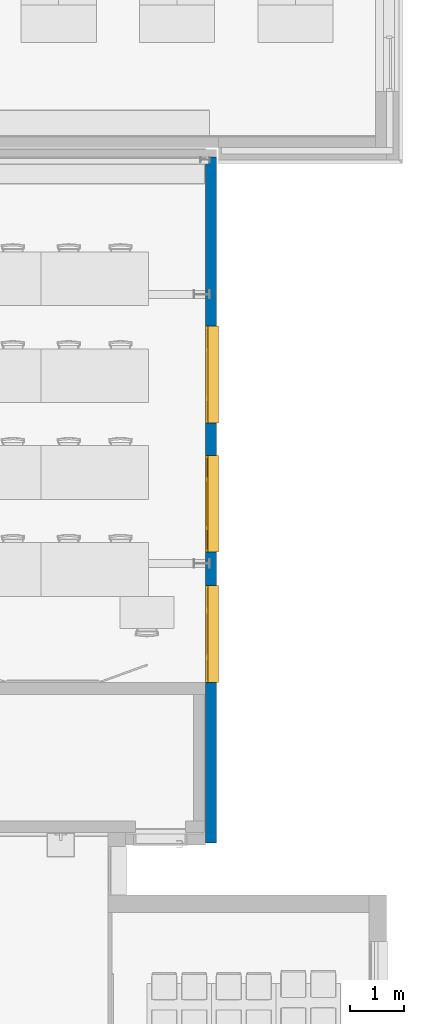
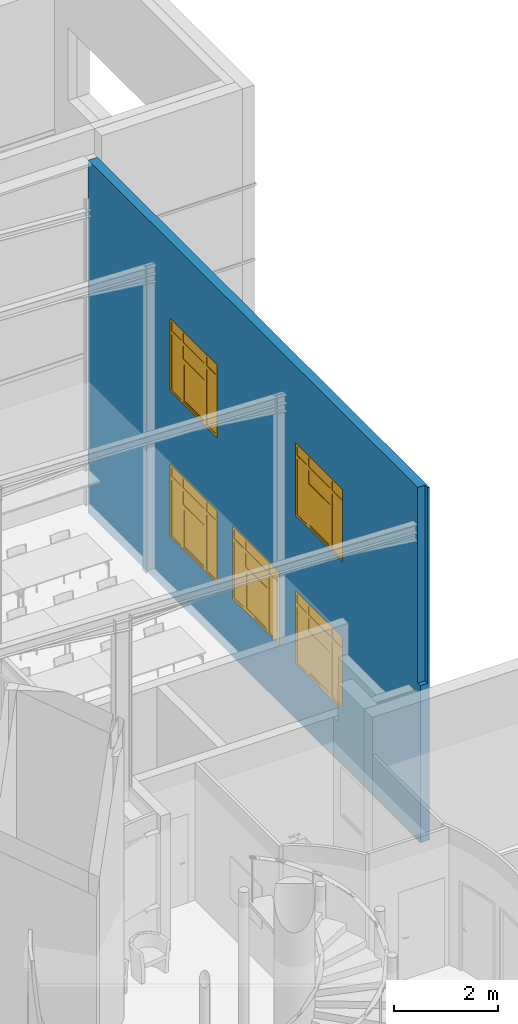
"""IFC2X3 building model written with IfcOpenShell, lengths in centimetres."""

from ifc_helpers import new_model, entity, si_unit, converted_unit, derived_unit, direction, frame, frame_2d, origin, place, context, subcontext, project, spatial, polyline, rectangle, outline, extrude, faceted_brep, source, transform, mapped, material, material_list, type_object, type_shapes, element, fill, save


model = new_model("IFC2X3")

# Units and contexts
model_context = context("Model", 3, precision=0.001, world=origin(), true_north=direction((6.12303176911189e-17, 1.0)))
body_context = subcontext(model_context, "Body", "Model", "MODEL_VIEW")
ifc_project = project(units=[si_unit("LENGTHUNIT", "METRE", prefix="CENTI"), si_unit("AREAUNIT", "SQUARE_METRE"), si_unit("VOLUMEUNIT", "CUBIC_METRE"), converted_unit("PLANEANGLEUNIT", "DEGREE", entity("IfcRatioMeasure", 0.0174532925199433), si_unit("PLANEANGLEUNIT", "RADIAN"), dimensions=[0, 0, 0, 0, 0, 0, 0]), si_unit("MASSUNIT", "GRAM", prefix="KILO"), si_unit("TIMEUNIT", "SECOND"), si_unit("FREQUENCYUNIT", "HERTZ"), si_unit("THERMODYNAMICTEMPERATUREUNIT", "DEGREE_CELSIUS"), derived_unit("THERMALTRANSMITTANCEUNIT", [(si_unit("MASSUNIT", "GRAM", prefix="KILO"), 1), (si_unit("THERMODYNAMICTEMPERATUREUNIT", "KELVIN"), -1), (si_unit("TIMEUNIT", "SECOND"), -3)]), derived_unit("VOLUMETRICFLOWRATEUNIT", [(si_unit("LENGTHUNIT", "METRE"), 3), (si_unit("TIMEUNIT", "SECOND"), -1)]), si_unit("ELECTRICCURRENTUNIT", "AMPERE"), si_unit("ELECTRICVOLTAGEUNIT", "VOLT"), si_unit("POWERUNIT", "WATT"), si_unit("FORCEUNIT", "NEWTON", prefix="KILO"), si_unit("ILLUMINANCEUNIT", "LUX"), si_unit("LUMINOUSFLUXUNIT", "LUMEN"), si_unit("LUMINOUSINTENSITYUNIT", "CANDELA"), derived_unit("USERDEFINED", [(si_unit("MASSUNIT", "GRAM", prefix="KILO"), -1), (si_unit("LENGTHUNIT", "METRE"), -2), (si_unit("TIMEUNIT", "SECOND"), 3), (si_unit("LUMINOUSFLUXUNIT", "LUMEN"), 1)]), derived_unit("LINEARVELOCITYUNIT", [(si_unit("LENGTHUNIT", "METRE"), 1), (si_unit("TIMEUNIT", "SECOND"), -1)]), si_unit("PRESSUREUNIT", "PASCAL"), derived_unit("USERDEFINED", [(si_unit("LENGTHUNIT", "METRE"), -2), (si_unit("MASSUNIT", "GRAM", prefix="KILO"), 1), (si_unit("TIMEUNIT", "SECOND"), -2)])], contexts=[model_context])

# Site, building, storey
site_placement = place(None, frame((8.62739174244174, -249.285249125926, 0.0)))
site = spatial("IfcSite", under=ifc_project, at=site_placement, Name="Default", CompositionType="ELEMENT")
building_placement = place(site_placement, origin())
building = spatial("IfcBuilding", under=site, at=building_placement, CompositionType="ELEMENT")
storey_1_placement = place(building_placement, origin())
storey_1 = spatial("IfcBuildingStorey", under=building, at=storey_1_placement, Name="RDC", CompositionType="ELEMENT", Elevation=-8.82465566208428e-11)

# Wall, openings, windows
ifc_material_1 = material(Name="Tôle/Doublage")
ifc_material_2 = material(Name="Laine minérale")
ifc_material_3 = material(Name="Plâtre")
ifc_material_list = material_list([ifc_material_1, ifc_material_2, ifc_material_3])
wall_type = type_object("IfcWallType", Name="Mur de base:MET 4 + ISO 14 + PLA 2", PredefinedType="NOTDEFINED")
wall_placement = place(storey_1_placement, frame((3672.90482780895, 1342.98020807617, -25.0), z_axis=(0.0, 0.0, 1.0), x_axis=(0.0, 1.0, 0.0)))
wall = element("IfcWall", 1, at=wall_placement, inside=storey_1, type_object=wall_type, material=ifc_material_list, Name="Mur de base:MET 4 + ISO 14 + PLA 2", ObjectType="Mur de base:MET 4 + ISO 14 + PLA 2", context=body_context, shape_type="Brep", body=[
    faceted_brep([(0.0, -10.0, 0.0), (1274.0, -10.0, 0.0), (1274.0, -10.0, 25.0), (1274.0, -10.0, 826.0), (0.0, -10.0, 826.0), (478.0, -10.0, 300.0), (478.0, -10.0, 130.0), (298.0, -10.0, 130.0), (298.0, -10.0, 300.0), (720.0, -10.0, 305.0), (720.0, -10.0, 135.0), (540.0, -10.0, 135.0), (540.0, -10.0, 305.0), (960.0, -10.0, 305.0), (960.0, -10.0, 135.0), (780.0, -10.0, 135.0), (780.0, -10.0, 305.0), (960.0, -10.0, 646.0), (960.0, -10.0, 476.0), (780.0, -10.0, 476.0), (780.0, -10.0, 646.0), (478.0, -10.0, 646.0), (478.0, -10.0, 476.0), (298.0, -10.0, 476.0), (298.0, -10.0, 646.0), (1274.0, 10.0, 0.0), (0.0, 10.0, 0.0), (0.0, 10.0, 368.0), (9.99960552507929, 10.0, 368.0), (9.99960552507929, 10.0, 826.0), (1274.0, 10.0, 826.0), (1274.0, 10.0, 825.899999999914), (478.0, 10.0, 130.0), (478.0, 10.0, 300.0), (298.0, 10.0, 300.0), (298.0, 10.0, 130.0), (720.0, 10.0, 135.0), (720.0, 10.0, 305.0), (540.0, 10.0, 305.0), (540.0, 10.0, 135.0), (960.0, 10.0, 135.0), (960.0, 10.0, 305.0), (780.0, 10.0, 305.0), (780.0, 10.0, 135.0), (960.0, 10.0, 476.0), (960.0, 10.0, 646.0), (780.0, 10.0, 646.0), (780.0, 10.0, 476.0), (478.0, 10.0, 476.0), (478.0, 10.0, 646.0), (298.0, 10.0, 646.0), (298.0, 10.0, 476.0), (9.99960552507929, -6.08026676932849, 826.0), (0.0, -6.08026676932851, 826.0), (0.0, -6.08026676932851, 368.0), (9.99960552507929, -6.08026676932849, 368.0)], [[[0, 1, 2, 3, 4], [5, 6, 7, 8], [9, 10, 11, 12], [13, 14, 15, 16], [17, 18, 19, 20], [21, 22, 23, 24]], [[25, 26, 27, 28, 29, 30, 31], [32, 33, 34, 35], [36, 37, 38, 39], [40, 41, 42, 43], [44, 45, 46, 47], [48, 49, 50, 51]], [[33, 32, 6, 5]], [[34, 33, 5, 8]], [[35, 34, 8, 7]], [[32, 35, 7, 6]], [[36, 10, 9, 37]], [[12, 38, 37, 9]], [[11, 39, 38, 12]], [[39, 11, 10, 36]], [[41, 40, 14, 13]], [[42, 41, 13, 16]], [[43, 42, 16, 15]], [[40, 43, 15, 14]], [[45, 44, 18, 17]], [[46, 45, 17, 20]], [[47, 46, 20, 19]], [[44, 47, 19, 18]], [[49, 48, 22, 21]], [[50, 49, 21, 24]], [[51, 50, 24, 23]], [[48, 51, 23, 22]], [[1, 0, 26, 25]], [[4, 3, 30, 29, 52, 53]], [[0, 4, 53, 54, 27, 26]], [[3, 2, 1, 25, 31, 30]], [[55, 52, 29, 28]], [[55, 28, 27, 54]], [[52, 55, 54, 53]]]),
])
opening_1_placement = place(wall_placement, frame((478.0, 10.0, 130.0)))
opening_1 = element("IfcOpeningElement", 2, at=opening_1_placement, cuts=wall, Name="V_90x100-I_90x40:V_90x100-I_90x40:1", ObjectType="Opening", context=body_context, shape_type="SweptSolid", body=[
    extrude(rectangle(XDim=169.999999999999, YDim=180.0, at=frame_2d((84.9999999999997, 90.0000000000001), x_axis=(1.0, 0.0))), frame((0.0, 0.0, 0.0), z_axis=(0.0, -1.0, 0.0), x_axis=(0.0, 0.0, 1.0)), (0.0, 0.0, 1.0), 20.0),
])
opening_2_placement = place(wall_placement, frame((720.0, 10.0, 135.0)))
opening_2 = element("IfcOpeningElement", 3, at=opening_2_placement, cuts=wall, Name="V_90x100-I_90x40:V_90x100-I_90x40:1", ObjectType="Opening", context=body_context, shape_type="SweptSolid", body=[
    extrude(rectangle(XDim=169.999999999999, YDim=180.0, at=frame_2d((84.9999999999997, 90.0000000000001), x_axis=(1.0, 0.0))), frame((0.0, 0.0, 0.0), z_axis=(0.0, -1.0, 0.0), x_axis=(0.0, 0.0, 1.0)), (0.0, 0.0, 1.0), 20.0),
])
opening_3_placement = place(wall_placement, frame((960.0, 10.0, 135.0)))
opening_3 = element("IfcOpeningElement", 4, at=opening_3_placement, cuts=wall, Name="V_90x100-I_90x40:V_90x100-I_90x40:1", ObjectType="Opening", context=body_context, shape_type="SweptSolid", body=[
    extrude(rectangle(XDim=169.999999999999, YDim=180.0, at=frame_2d((84.9999999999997, 89.9999999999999), x_axis=(1.0, 0.0))), frame((0.0, 0.0, 0.0), z_axis=(0.0, -1.0, 0.0), x_axis=(0.0, 0.0, 1.0)), (0.0, 0.0, 1.0), 20.0),
])
opening_4_placement = place(wall_placement, frame((478.0, 10.0, 476.0)))
opening_4 = element("IfcOpeningElement", 5, at=opening_4_placement, cuts=wall, Name="V_90x100-I_90x40:V_90x100-I_90x40:1", ObjectType="Opening", context=body_context, shape_type="SweptSolid", body=[
    extrude(rectangle(XDim=169.999999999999, YDim=180.0, at=frame_2d((84.9999999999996, 90.0000000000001), x_axis=(1.0, 0.0))), frame((0.0, 0.0, 0.0), z_axis=(0.0, -1.0, 0.0), x_axis=(0.0, 0.0, 1.0)), (0.0, 0.0, 1.0), 20.0),
])
opening_5_placement = place(wall_placement, frame((960.0, 10.0, 476.0)))
opening_5 = element("IfcOpeningElement", 6, at=opening_5_placement, cuts=wall, Name="V_90x100-I_90x40:V_90x100-I_90x40:1", ObjectType="Opening", context=body_context, shape_type="SweptSolid", body=[
    extrude(rectangle(XDim=169.999999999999, YDim=180.0, at=frame_2d((84.9999999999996, 89.9999999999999), x_axis=(1.0, 0.0))), frame((0.0, 0.0, 0.0), z_axis=(0.0, -1.0, 0.0), x_axis=(0.0, 0.0, 1.0)), (0.0, 0.0, 1.0), 20.0),
])
ifc_material_4 = material(Name="Verre")
window_style = type_object("IfcWindowStyle", Name="V_90x100-I_90x40", ConstructionType="NOTDEFINED", OperationType="NOTDEFINED", ParameterTakesPrecedence=False, Sizeable=False, material=ifc_material_4)
shared_shape = source(origin(), body_context, "Body", "SweptSolid", [
    extrude(outline(polyline([(-50.9, -41.0), (-50.9, -49.0), (-29.9000000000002, -49.0), (-29.9000000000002, -85.0), (-21.8999999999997, -85.0), (-21.8999999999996, -49.0), (109.099999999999, -49.0), (109.099999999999, -41.0), (17.1000000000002, -41.0), (17.1000000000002, 41.0), (109.1, 41.0), (109.1, 49.0), (-21.8999999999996, 49.0), (-21.8999999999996, 85.0), (-29.9000000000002, 85.0), (-29.9000000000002, 49.0), (-50.8999999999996, 49.0), (-50.8999999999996, 41.0), (-29.9000000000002, 41.0), (-29.9000000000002, -41.0), (-50.9, -41.0)]), holes=[polyline([(9.09999999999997, 41.0), (9.09999999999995, -41.0), (-21.8999999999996, -41.0), (-21.8999999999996, 41.0), (9.09999999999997, 41.0)])]), frame((90.0, 0.0, 114.099999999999), z_axis=(0.0, -1.0, 0.0), x_axis=(0.0, 0.0, -1.0)), (0.0, 0.0, -1.0), 5.0),
    extrude(outline(polyline([(-85.0, -90.0), (85.0, -90.0), (85.0, 90.0), (-85.0, 90.0), (-85.0, -90.0)]), holes=[polyline([(80.0, -85.0), (-80.0, -85.0), (-80.0, 85.0), (80.0, 85.0), (80.0, -85.0)])]), frame((90.0, 0.0, 85.0), z_axis=(0.0, 1.0, 0.0), x_axis=(0.0, 0.0, -1.0)), (0.0, 0.0, 1.0), 4.99999999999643),
    extrude(rectangle(XDim=2.0, YDim=73.9999999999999, at=frame_2d((8.88178419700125e-16, 0.0), x_axis=(1.0, 0.0))), frame((90.0, 2.5, 9.0), z_axis=(0.0, 0.0, 1.0), x_axis=(0.0, 1.0, 0.0)), (0.0, 0.0, 1.0), 83.9999999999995),
    extrude(outline(polyline([(-46.0, -41.0), (46.0, -41.0), (46.0, 41.0), (-46.0, 41.0), (-46.0, -41.0)]), holes=[polyline([(42.0, -37.0), (-42.0, -37.0), (-42.0, 37.0), (42.0, 37.0), (42.0, -37.0)])]), frame((90.0, 0.5, 51.0), z_axis=(0.0, 1.0, 0.0), x_axis=(0.0, 0.0, -1.0)), (0.0, 0.0, 1.0), 4.0),
    extrude(rectangle(XDim=3.0, YDim=36.0, at=frame_2d((-3.33066907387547e-16, 0.0), x_axis=(1.0, 0.0))), frame((157.0, 2.5, 5.0), z_axis=(0.0, 0.0, 1.0), x_axis=(0.0, 1.0, 0.0)), (0.0, 0.0, 1.0), 130.999999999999),
    extrude(rectangle(XDim=3.0, YDim=36.0000000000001, at=frame_2d((-3.33066907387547e-16, -7.105427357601e-15), x_axis=(1.0, 0.0))), frame((23.0, 2.5, 5.0), z_axis=(0.0, 0.0, 1.0), x_axis=(0.0, 1.0, 0.0)), (0.0, 0.0, 1.0), 130.999999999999),
    extrude(rectangle(XDim=3.0, YDim=82.0, at=frame_2d((-3.33066907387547e-16, 0.0), x_axis=(1.0, 0.0))), frame((90.0, 2.5, 105.0), z_axis=(0.0, 0.0, 1.0), x_axis=(0.0, 1.0, 0.0)), (0.0, 0.0, 1.0), 30.9999999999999),
    extrude(rectangle(XDim=3.0, YDim=35.9999999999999, at=frame_2d((-3.33066907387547e-16, 0.0), x_axis=(1.0, 0.0))), frame((157.0, 2.5, 144.0), z_axis=(0.0, 0.0, 1.0), x_axis=(0.0, 1.0, 0.0)), (0.0, 0.0, 1.0), 20.9999999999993),
    extrude(rectangle(XDim=3.0, YDim=36.0, at=frame_2d((-3.33066907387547e-16, -3.5527136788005e-15), x_axis=(1.0, 0.0))), frame((23.0, 2.5, 144.0), z_axis=(0.0, 0.0, 1.0), x_axis=(0.0, 1.0, 0.0)), (0.0, 0.0, 1.0), 20.9999999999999),
    extrude(rectangle(XDim=3.0, YDim=82.0, at=frame_2d((-3.33066907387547e-16, 0.0), x_axis=(1.0, 0.0))), frame((90.0, 2.5, 144.0), z_axis=(0.0, 0.0, 1.0), x_axis=(0.0, 1.0, 0.0)), (0.0, 0.0, 1.0), 20.9999999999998),
    extrude(outline(polyline([(-5.24525873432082, -2.04308567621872), (13.8011373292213, -2.04308567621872), (13.7638201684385, -1.50942541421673), (-4.78135494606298, -1.50942541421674), (-4.99062436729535, 1.48326673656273), (-3.49427829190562, 1.58790144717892), (-3.52915652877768, 2.08668347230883), (-5.52428462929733, 1.94717052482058), (-5.24525873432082, -2.04308567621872)])), frame((0.0, 18.6249999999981, -0.00082749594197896), z_axis=(1.0, 0.0, 0.0), x_axis=(0.0, -0.997564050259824, 0.0697564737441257)), (0.0, 0.0, 1.0), 180.0),
])
type_shapes(window_style, [shared_shape])
window_1_placement = place(opening_1_placement, frame((-2.54476617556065e-09, 0.0, 0.0), z_axis=(0.0, 0.0, 1.0), x_axis=(-1.0, 0.0, 0.0)))
window_1 = element("IfcWindow", 7, at=window_1_placement, inside=storey_1, type_object=window_style, material=ifc_material_4, Name="V_90x100-I_90x40:V_90x100-I_90x40", ObjectType="V_90x100-I_90x40", OverallHeight=169.999999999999, OverallWidth=180.0, context=body_context, shape_type="MappedRepresentation", body=[
    mapped(shared_shape, transform((0.0, 0.0, 0.0), scale=1.0)),
])
fill(opening_1, window_1)
window_2_placement = place(opening_2_placement, frame((-2.54522092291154e-09, 0.0, 0.0), z_axis=(0.0, 0.0, 1.0), x_axis=(-1.0, 0.0, 0.0)))
window_2 = element("IfcWindow", 8, at=window_2_placement, inside=storey_1, type_object=window_style, material=ifc_material_4, Name="V_90x100-I_90x40:V_90x100-I_90x40", ObjectType="V_90x100-I_90x40", OverallHeight=169.999999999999, OverallWidth=180.0, context=body_context, shape_type="MappedRepresentation", body=[
    mapped(shared_shape, transform((0.0, 0.0, 0.0), scale=1.0)),
])
fill(opening_2, window_2)
window_3_placement = place(opening_3_placement, frame((-5.24460119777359e-09, 0.0, 0.0), z_axis=(0.0, 0.0, 1.0), x_axis=(-1.0, 0.0, 0.0)))
window_3 = element("IfcWindow", 9, at=window_3_placement, inside=storey_1, type_object=window_style, material=ifc_material_4, Name="V_90x100-I_90x40:V_90x100-I_90x40", ObjectType="V_90x100-I_90x40", OverallHeight=169.999999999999, OverallWidth=180.0, context=body_context, shape_type="MappedRepresentation", body=[
    mapped(shared_shape, transform((0.0, 0.0, 0.0), scale=1.0)),
])
fill(opening_3, window_3)

# Storey
storey_2_placement = place(building_placement, frame((0.0, 0.0, 343.0)))
storey_2 = spatial("IfcBuildingStorey", under=building, at=storey_2_placement, Name="R+1", CompositionType="ELEMENT", Elevation=343.0)

# Window
window_4_placement = place(opening_4_placement, frame((-2.54476617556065e-09, 0.0, 0.0), z_axis=(0.0, 0.0, 1.0), x_axis=(-1.0, 0.0, 0.0)))
window_4 = element("IfcWindow", 10, at=window_4_placement, inside=storey_2, type_object=window_style, material=ifc_material_4, Name="V_90x100-I_90x40:V_90x100-I_90x40", ObjectType="V_90x100-I_90x40", OverallHeight=169.999999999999, OverallWidth=180.0, context=body_context, shape_type="MappedRepresentation", body=[
    mapped(shared_shape, transform((0.0, 0.0, 0.0), scale=1.0)),
])

fill(opening_4, window_4)

window_5_placement = place(opening_5_placement, frame((-5.24460119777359e-09, 0.0, 0.0), z_axis=(0.0, 0.0, 1.0), x_axis=(-1.0, 0.0, 0.0)))
window_5 = element("IfcWindow", 11, at=window_5_placement, inside=storey_2, type_object=window_style, material=ifc_material_4, Name="V_90x100-I_90x40:V_90x100-I_90x40", ObjectType="V_90x100-I_90x40", OverallHeight=169.999999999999, OverallWidth=180.0, context=body_context, shape_type="MappedRepresentation", body=[
    mapped(shared_shape, transform((0.0, 0.0, 0.0), scale=1.0)),
])

fill(opening_5, window_5)

save(model, "model.ifc")
